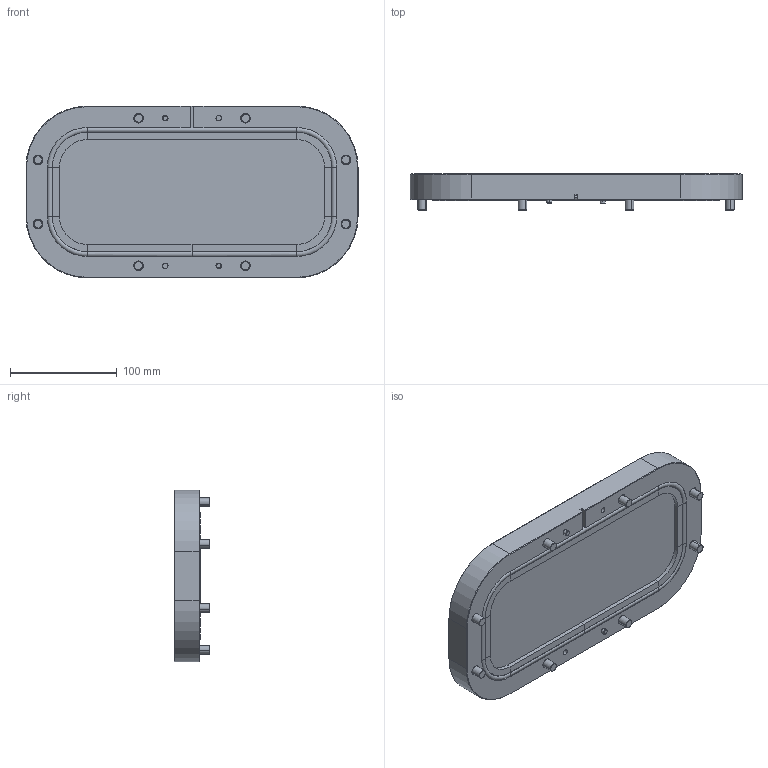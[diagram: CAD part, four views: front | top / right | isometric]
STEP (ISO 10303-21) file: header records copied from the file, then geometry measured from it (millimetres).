
FILE_DESCRIPTION (( 'STEP AP214' ), '1' );
FILE_NAME ('JKR2510-G-A-V-A-200503.STEP', '2020-05-03T06:02:58', ( '' ), ( '' ), 'SwSTEP 2.0', 'SolidWorks 2018', '' );
FILE_SCHEMA (( 'AUTOMOTIVE_DESIGN' ));
Length unit declared in the file: millimetre
Products named in the file (8): JKR2510-G-A-V-A-200503; JKR2510-01B; JKR2510-05A; JKR2510-02B; JKR2510-04A; COM-001-M8-25_ル遽; JKR2510-03D; COM-005-5-10L
Assembly tree (15 placements, depth 2):
  JKR2510-G-A-V-A-200503
    JKR2510-03D
    JKR2510-04A
    JKR2510-01B
    JKR2510-02B
    JKR2510-05A
    COM-001-M8-25_ル遽  x8
    COM-005-5-10L  x2
Bounding box: 310.6 x 33.6 x 160.6 mm (x, y, z)
Volume: 906000.8 mm3; surface area: 211957.6 mm2
Topology: 15 solids, 15 shells, 512 faces, 1128 edges, 669 vertices
Faces by surface type: cylinder 194, plane 186, cone 68, torus 64
Entity records: 11015 total; most frequent: DIRECTION 2003, CARTESIAN_POINT 2002, ORIENTED_EDGE 1696, EDGE_CURVE 848, AXIS2_PLACEMENT_3D 804, VERTEX_POINT 493, EDGE_LOOP 411, CIRCLE 408
